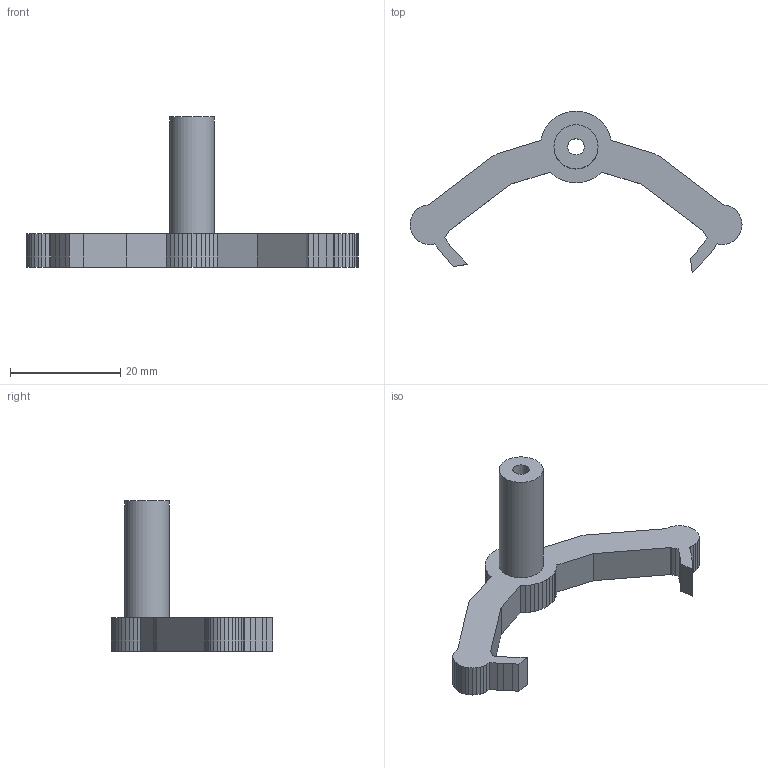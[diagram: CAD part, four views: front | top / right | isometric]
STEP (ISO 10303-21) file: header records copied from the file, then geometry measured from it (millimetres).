
FILE_DESCRIPTION(('Open CASCADE Model'),'2;1');
FILE_NAME('Open CASCADE Shape Model','2026-10-05T13:03:07',('Author'),( 'Open CASCADE'),'Open CASCADE STEP processor 7.9','Open CASCADE 7.9' ,'Unknown');
FILE_SCHEMA(('AUTOMOTIVE_DESIGN { 1 0 10303 214 1 1 1 1 }'));
Length unit declared in the file: millimetre
Products named in the file (1): Open CASCADE STEP translator 7.9 17
Bounding box: 60.18 x 29.31 x 27.2 mm (x, y, z)
Volume: 3823.4 mm3; surface area: 2800.6 mm2
Topology: 1 solids, 1 shells, 109 faces, 318 edges, 212 vertices
Faces by surface type: plane 107, cylinder 2
Full cylindrical faces by diameter (mm): 2.95 x1, 8 x1
Entity records: 7690 total; most frequent: CARTESIAN_POINT 1288, DIRECTION 1176, LINE 946, VECTOR 946, ORIENTED_EDGE 636, PCURVE 636, DEFINITIONAL_REPRESENTATION 636, EDGE_CURVE 318
